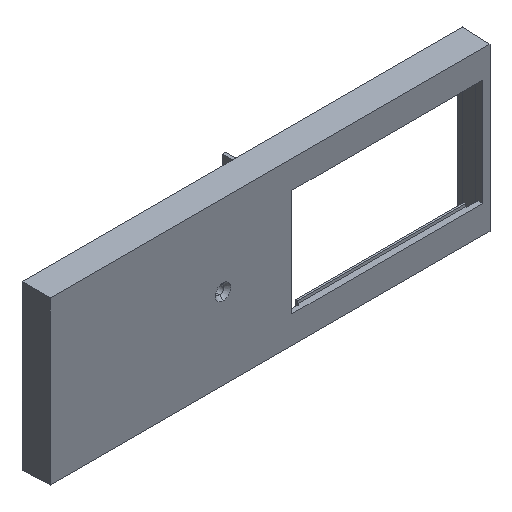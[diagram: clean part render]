
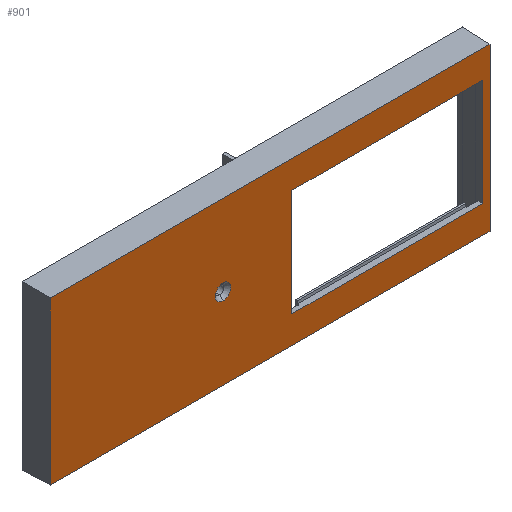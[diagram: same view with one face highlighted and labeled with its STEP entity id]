
A CAD part, isometric view. The second image highlights one B-rep face of the part: STEP entity #901.
In plain terms, the highlighted planar face has unit normal (0, -1, 0).
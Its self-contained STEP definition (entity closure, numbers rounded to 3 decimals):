
#94 = VECTOR ( 'NONE', #688, 1000. ) ;
#101 = LINE ( 'NONE', #858, #94 ) ;
#187 = VERTEX_POINT ( 'NONE', #844 ) ;
#217 = EDGE_CURVE ( 'NONE', #999, #2612, #101, .T. ) ;
#287 = EDGE_CURVE ( 'NONE', #2612, #187, #3443, .T. ) ;
#363 = ORIENTED_EDGE ( 'NONE', *, *, #217, .T. ) ;
#377 = CARTESIAN_POINT ( 'NONE',  ( -63.3, 0., -23.33 ) ) ;
#383 = DIRECTION ( 'NONE',  ( 0., 0., 1. ) ) ;
#384 = DIRECTION ( 'NONE',  ( 0., 1., 0. ) ) ;
#387 = CARTESIAN_POINT ( 'NONE',  ( -13.609, 0., 0. ) ) ;
#389 = DIRECTION ( 'NONE',  ( 1., 0., 0. ) ) ;
#422 = VECTOR ( 'NONE', #1724, 1000. ) ;
#427 = CARTESIAN_POINT ( 'NONE',  ( 6.241, 0., 15.4 ) ) ;
#461 = LINE ( 'NONE', #377, #422 ) ;
#501 = LINE ( 'NONE', #2546, #544 ) ;
#544 = VECTOR ( 'NONE', #913, 1000. ) ;
#618 = CARTESIAN_POINT ( 'NONE',  ( -63.3, 0., 23.33 ) ) ;
#681 = CARTESIAN_POINT ( 'NONE',  ( 63.3, 0., 23.33 ) ) ;
#688 = DIRECTION ( 'NONE',  ( 0., 0., 1. ) ) ;
#692 = EDGE_LOOP ( 'NONE', ( #919, #2233, #3346, #1617 ) ) ;
#709 = EDGE_CURVE ( 'NONE', #1334, #2570, #2425, .T. ) ;
#844 = CARTESIAN_POINT ( 'NONE',  ( 61.241, 0., 15.4 ) ) ;
#858 = CARTESIAN_POINT ( 'NONE',  ( 6.241, 0., -15.4 ) ) ;
#901 = ADVANCED_FACE ( 'Cara9', ( #1945, #1957, #1961 ), #2642, .F. ) ;
#913 = DIRECTION ( 'NONE',  ( -1., 0., 0. ) ) ;
#919 = ORIENTED_EDGE ( 'NONE', *, *, #1190, .F. ) ;
#948 = EDGE_LOOP ( 'NONE', ( #3421, #363, #2698, #1518 ) ) ;
#999 = VERTEX_POINT ( 'NONE', #2474 ) ;
#1004 = CARTESIAN_POINT ( 'NONE',  ( 63.3, 0., -23.33 ) ) ;
#1141 = ORIENTED_EDGE ( 'NONE', *, *, #709, .T. ) ;
#1155 = VECTOR ( 'NONE', #2163, 1000. ) ;
#1190 = EDGE_CURVE ( 'Arista1', #2012, #1849, #1274, .T. ) ;
#1230 = EDGE_LOOP ( 'NONE', ( #2784, #1141 ) ) ;
#1274 = LINE ( 'NONE', #2161, #1155 ) ;
#1334 = VERTEX_POINT ( 'NONE', #1934 ) ;
#1405 = CARTESIAN_POINT ( 'NONE',  ( -63.3, 0., -23.33 ) ) ;
#1410 = DIRECTION ( 'NONE',  ( 1., 0., 0. ) ) ;
#1518 = ORIENTED_EDGE ( 'NONE', *, *, #3361, .T. ) ;
#1617 = ORIENTED_EDGE ( 'NONE', *, *, #2882, .F. ) ;
#1680 = AXIS2_PLACEMENT_3D ( 'NONE', #2881, #2876, #2875 ) ;
#1686 = CARTESIAN_POINT ( 'NONE',  ( 61.241, 0., -15.4 ) ) ;
#1724 = DIRECTION ( 'NONE',  ( 0., 0., 1. ) ) ;
#1775 = DIRECTION ( 'NONE',  ( -1., 0., 0. ) ) ;
#1808 = LINE ( 'NONE', #3406, #1850 ) ;
#1849 = VERTEX_POINT ( 'NONE', #1004 ) ;
#1850 = VECTOR ( 'NONE', #1775, 1000. ) ;
#1879 = CARTESIAN_POINT ( 'NONE',  ( 6.241, 0., 15.4 ) ) ;
#1934 = CARTESIAN_POINT ( 'NONE',  ( -13.609, 0., 2.25 ) ) ;
#1945 = FACE_BOUND ( 'NONE', #1230, .T. ) ;
#1957 = FACE_BOUND ( 'NONE', #948, .T. ) ;
#1961 = FACE_OUTER_BOUND ( 'NONE', #692, .T. ) ;
#2012 = VERTEX_POINT ( 'NONE', #681 ) ;
#2123 = EDGE_CURVE ( 'NONE', #2570, #1334, #2459, .T. ) ;
#2161 = CARTESIAN_POINT ( 'NONE',  ( 63.3, 0., -23.33 ) ) ;
#2163 = DIRECTION ( 'NONE',  ( 0., 0., -1. ) ) ;
#2203 = CARTESIAN_POINT ( 'NONE',  ( -63.3, 0., 23.33 ) ) ;
#2233 = ORIENTED_EDGE ( 'NONE', *, *, #3249, .F. ) ;
#2339 = EDGE_CURVE ( 'Arista4', #2852, #999, #1808, .T. ) ;
#2420 = CARTESIAN_POINT ( 'NONE',  ( -13.609, 0., -2.25 ) ) ;
#2422 = LINE ( 'NONE', #3124, #2479 ) ;
#2425 = CIRCLE ( 'NONE', #1680, 2.25 ) ;
#2459 = CIRCLE ( 'NONE', #2623, 2.25 ) ;
#2474 = CARTESIAN_POINT ( 'NONE',  ( 6.241, 0., -15.4 ) ) ;
#2479 = VECTOR ( 'NONE', #2929, 1000. ) ;
#2546 = CARTESIAN_POINT ( 'NONE',  ( -63.3, 0., -23.33 ) ) ;
#2570 = VERTEX_POINT ( 'NONE', #2420 ) ;
#2612 = VERTEX_POINT ( 'NONE', #1879 ) ;
#2623 = AXIS2_PLACEMENT_3D ( 'NONE', #387, #384, #383 ) ;
#2638 = DIRECTION ( 'NONE',  ( 0., 0., 1. ) ) ;
#2640 = DIRECTION ( 'NONE',  ( 0., 1., 0. ) ) ;
#2642 = PLANE ( 'NONE',  #2793 ) ;
#2683 = CARTESIAN_POINT ( 'NONE',  ( 0., 0., 0. ) ) ;
#2698 = ORIENTED_EDGE ( 'NONE', *, *, #287, .T. ) ;
#2740 = VERTEX_POINT ( 'NONE', #2203 ) ;
#2784 = ORIENTED_EDGE ( 'NONE', *, *, #2123, .T. ) ;
#2793 = AXIS2_PLACEMENT_3D ( 'NONE', #2683, #2640, #2638 ) ;
#2817 = LINE ( 'NONE', #618, #2911 ) ;
#2852 = VERTEX_POINT ( 'NONE', #1686 ) ;
#2875 = DIRECTION ( 'NONE',  ( 0., 0., 1. ) ) ;
#2876 = DIRECTION ( 'NONE',  ( 0., 1., 0. ) ) ;
#2881 = CARTESIAN_POINT ( 'NONE',  ( -13.609, 0., 0. ) ) ;
#2882 = EDGE_CURVE ( 'NONE', #1849, #3236, #501, .T. ) ;
#2898 = EDGE_CURVE ( 'NONE', #3236, #2740, #461, .T. ) ;
#2911 = VECTOR ( 'NONE', #1410, 1000. ) ;
#2929 = DIRECTION ( 'NONE',  ( 0., 0., -1. ) ) ;
#3124 = CARTESIAN_POINT ( 'NONE',  ( 61.241, 0., -15.4 ) ) ;
#3236 = VERTEX_POINT ( 'NONE', #1405 ) ;
#3249 = EDGE_CURVE ( 'NONE', #2740, #2012, #2817, .T. ) ;
#3346 = ORIENTED_EDGE ( 'NONE', *, *, #2898, .F. ) ;
#3361 = EDGE_CURVE ( 'NONE', #187, #2852, #2422, .T. ) ;
#3405 = VECTOR ( 'NONE', #389, 1000. ) ;
#3406 = CARTESIAN_POINT ( 'NONE',  ( 6.241, 0., -15.4 ) ) ;
#3421 = ORIENTED_EDGE ( 'NONE', *, *, #2339, .T. ) ;
#3443 = LINE ( 'NONE', #427, #3405 ) ;
